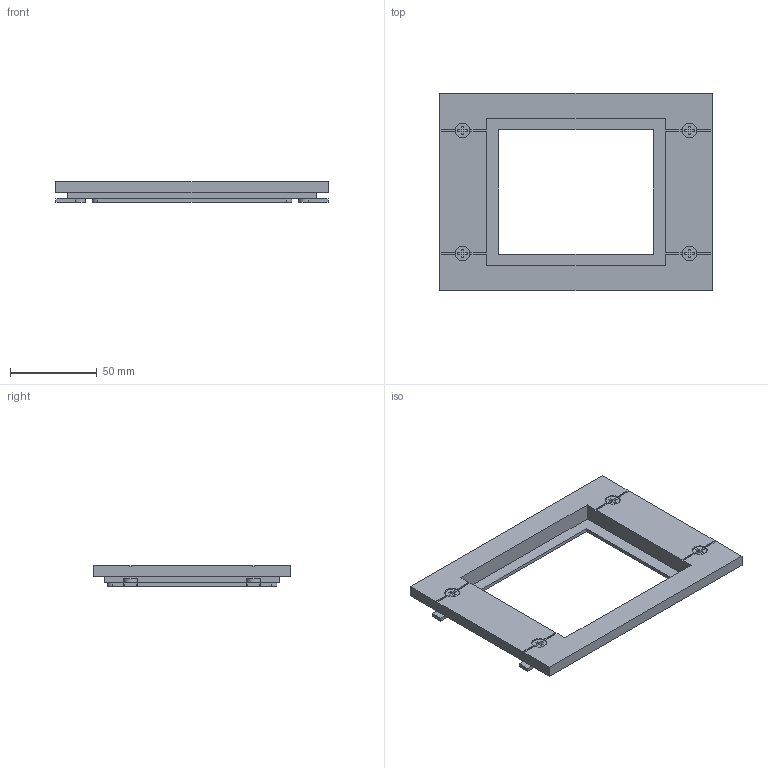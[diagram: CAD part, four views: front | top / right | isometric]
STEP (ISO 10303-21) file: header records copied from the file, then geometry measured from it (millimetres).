
FILE_DESCRIPTION(('STEP AP203'), '1');
FILE_NAME('Ðàìêà ïåðåäíåé ïàíåëè IP40 - ÂÀ11-02', '2024-09-27T11:08:46', (' '), (''), 'C3D Converter', 'C3D Toolkit', '');
FILE_SCHEMA(('CONFIG_CONTROL_DESIGN'));
Length unit declared in the file: millimetre
Products named in the file (1): рамка ВА11-02
Bounding box: 157 x 114 x 12 mm (x, y, z)
Volume: 71355.3 mm3; surface area: 42134.3 mm2
Topology: 1 solids, 1 shells, 234 faces, 624 edges, 416 vertices
Faces by surface type: plane 202, cylinder 32
Full cylindrical faces by diameter (mm): 8 x4, 8.5 x4
Entity records: 9092 total; most frequent: CARTESIAN_POINT 1267, ORIENTED_EDGE 1232, DIRECTION 1174, EDGE_CURVE 616, LINE 528, VECTOR 528, VERTEX_POINT 416, AXIS2_PLACEMENT_3D 323
